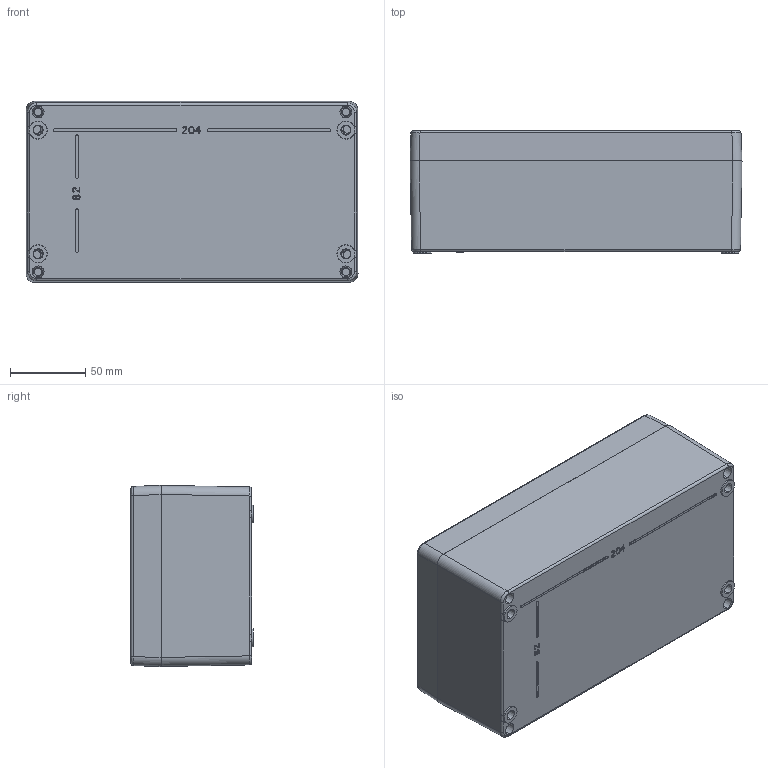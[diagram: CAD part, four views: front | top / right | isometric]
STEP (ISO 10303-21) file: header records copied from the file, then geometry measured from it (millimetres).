
FILE_DESCRIPTION (( 'STEP AP203' ), '1' );
FILE_NAME ('Zag 10 Assembly - Corrected (22.04.26).STEP', '2026-04-22T10:24:11', ( '' ), ( '' ), 'SwSTEP 2.0', 'SolidWorks 2025', '' );
FILE_SCHEMA (( 'CONFIG_CONTROL_DESIGN' ));
Length unit declared in the file: millimetre
Products named in the file (9): ZAG 10 Box_ZAG 10 Box M5; Assem3^Zag 10 Assembly - Corrected (22.04.26); single coil rectangular section spring washer_bsi_Rectangular section spring washer BS 4464 - 4 (Type B); Assem5^Zag 10 Assembly - Corrected (22.04.26); pan head cross recess screw_bsi_ISO 7045 - M5 x 25 - Z --- 25N; Zag 10 Assembly - Corrected (22.04.26); Assem2^Zag 10 Assembly - Corrected (22.04.26); Assem4^Zag 10 Assembly - Corrected (22.04.26); Zag 10 Lid_ZAG 10 Box M5
Assembly tree (14 placements, depth 3):
  Zag 10 Assembly - Corrected (22.04.26)
    ZAG 10 Box_ZAG 10 Box M5
    Zag 10 Lid_ZAG 10 Box M5
    Assem2^Zag 10 Assembly - Corrected (22.04.26)
      single coil rectangular section spring washer_bsi_Rectangular section spring washer BS 4464 - 4 (Type B)
      pan head cross recess screw_bsi_ISO 7045 - M5 x 25 - Z --- 25N
    Assem5^Zag 10 Assembly - Corrected (22.04.26)
      pan head cross recess screw_bsi_ISO 7045 - M5 x 25 - Z --- 25N
      single coil rectangular section spring washer_bsi_Rectangular section spring washer BS 4464 - 4 (Type B)
    Assem4^Zag 10 Assembly - Corrected (22.04.26)
      pan head cross recess screw_bsi_ISO 7045 - M5 x 25 - Z --- 25N
      single coil rectangular section spring washer_bsi_Rectangular section spring washer BS 4464 - 4 (Type B)
    Assem3^Zag 10 Assembly - Corrected (22.04.26)
      pan head cross recess screw_bsi_ISO 7045 - M5 x 25 - Z --- 25N
      single coil rectangular section spring washer_bsi_Rectangular section spring washer BS 4464 - 4 (Type B)
Bounding box: 220.04 x 81 x 120.08 mm (x, y, z)
Volume: 463788.7 mm3; surface area: 225987.4 mm2
Topology: 10 solids, 10 shells, 956 faces, 2263 edges, 1398 vertices
Faces by surface type: plane 374, cylinder 209, bspline 172, cone 135, torus 58, sphere 8
Entity records: 33193 total; most frequent: CARTESIAN_POINT 14019, ORIENTED_EDGE 3866, DIRECTION 3545, EDGE_CURVE 1933, AXIS2_PLACEMENT_3D 1284, VERTEX_POINT 1197, VECTOR 977, LINE 977
